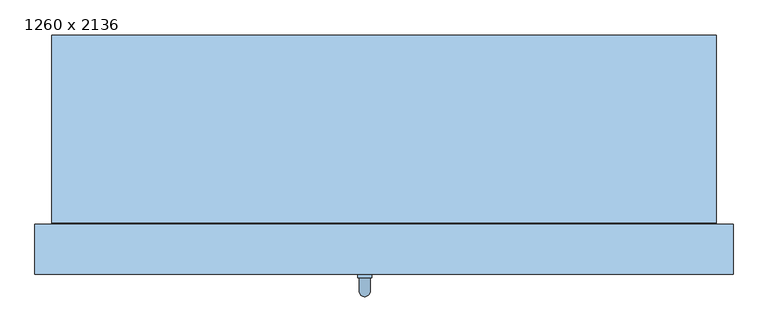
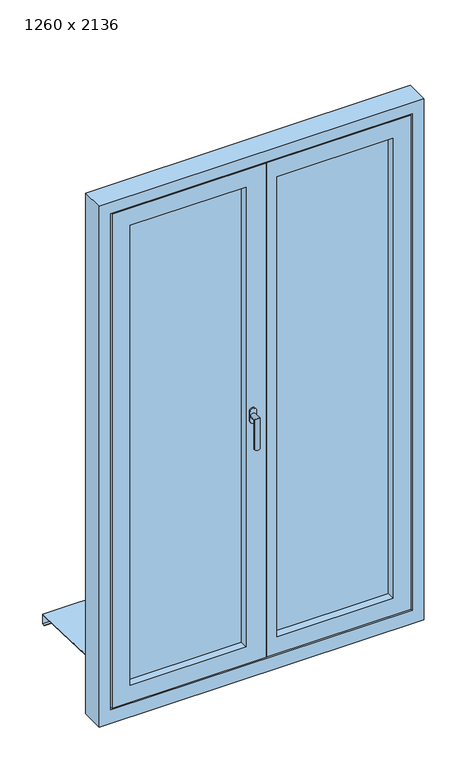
"""IFC4 building model written with IfcOpenShell, lengths in millimetres: window geometry, FE TÜR 2 tlg - DrehKipp mit Stulp : 1260 x 2136."""

from ifc_helpers import new_model, si_unit, frame, origin, place, context, project, spatial, polyline, circle_curve, ellipse_curve, outline, extrude, faceted_brep, source, transform, mapped, element, save
from ifc_brep_helpers import plane_surface, cylinder_surface, advanced_brep


def window_1260_x_2136_395e8edb(model_context):
    return source(origin(), model_context, "Body", "SolidModel", [
        advanced_brep(
        [(-47.5, 12.5, 1090.0), (-22.5, 12.5, 1090.0), (-22.5, 12.5, 1072.5), (-22.5, 12.5, 1055.0), (-47.5, 12.5, 1055.0), (-47.5, 12.5, 1072.5), (-25.0, -17.5, 1072.5), (-25.0, 6.5, 1072.5), (-45.0, 6.5, 1072.5), (-45.0, -17.5, 1072.5), (-25.0, -17.5, 952.5), (-45.0, -17.5, 952.5), (-47.5, 6.5, 1090.0), (-47.5, 6.5, 1072.5), (-47.5, 6.5, 1055.0), (-22.5, 6.5, 1055.0), (-22.5, 6.5, 1072.5), (-22.5, 6.5, 1090.0)],
        [
            (0, 1, circle_curve(frame((-35.0, 12.5, 1090.0), z_axis=(0.0, 1.0, 0.0), x_axis=(-1.0, 0.0, 0.0)), 12.5)),
            (1, 2),
            (2, 3),
            (3, 4, circle_curve(frame((-35.0, 12.5, 1055.0), z_axis=(0.0, 1.0, 0.0), x_axis=(-1.0, 0.0, 0.0)), 12.5)),
            (4, 5),
            (5, 0),
            (6, 7),
            (7, 8, circle_curve(frame((-35.0, 6.5, 1072.5), z_axis=(0.0, -1.0, 0.0), x_axis=(-1.0, 0.0, 0.0)), 10.0)),
            (8, 9),
            (9, 6, ellipse_curve(frame((-35.0, -17.5, 1072.5), z_axis=(0.0, 0.7071067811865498, 0.7071067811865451), x_axis=(0.0, 0.7071067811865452, -0.7071067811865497)), 14.1421356, 10.0)),
            (8, 7, circle_curve(frame((-35.0, 6.5, 1072.5), z_axis=(0.0, -1.0, 0.0), x_axis=(-1.0, 0.0, 0.0)), 10.0)),
            (6, 9, ellipse_curve(frame((-35.0, -17.5, 1072.5), z_axis=(0.0, 0.7071067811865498, 0.7071067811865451), x_axis=(0.0, 0.7071067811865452, -0.7071067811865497)), 14.1421356, 10.0)),
            (10, 11, circle_curve(frame((-35.0, -17.5, 952.5), z_axis=(0.0, 0.0, -1.0), x_axis=(-1.0, 0.0, 0.0)), 10.0)),
            (11, 10, circle_curve(frame((-35.0, -17.5, 952.5), z_axis=(0.0, 0.0, -1.0), x_axis=(-1.0, 0.0, 0.0)), 10.0)),
            (9, 11),
            (10, 6),
            (12, 13),
            (13, 14),
            (14, 15, circle_curve(frame((-35.0, 6.5, 1055.0), z_axis=(0.0, -1.0, 0.0), x_axis=(-1.0, 0.0, 0.0)), 12.5)),
            (15, 16),
            (16, 17),
            (17, 12, circle_curve(frame((-35.0, 6.5, 1090.0), z_axis=(0.0, -1.0, 0.0), x_axis=(-1.0, 0.0, 0.0)), 12.5)),
            (17, 1),
            (0, 12),
            (16, 2),
            (15, 3),
            (14, 4),
            (13, 5),
        ],
        [
            plane_surface(frame((-35.0, 12.5, 1072.5), z_axis=(0.0, 1.0, 0.0), x_axis=(-1.0, 0.0, 0.0))),
            cylinder_surface(frame((-35.0, 12.5, 1072.5), z_axis=(0.0, 1.0, 0.0), x_axis=(-1.0, 0.0, 0.0)), 10.0),
            plane_surface(frame((-35.0, -17.5, 952.5), z_axis=(0.0, 0.0, -1.0), x_axis=(-1.0, 0.0, 0.0))),
            cylinder_surface(frame((-35.0, -17.5, 1072.5), z_axis=(0.0, 0.0, 1.0), x_axis=(-1.0, 0.0, 0.0)), 10.0),
            plane_surface(frame((-47.5, 6.5, 1090.0), z_axis=(0.0, -1.0, 0.0), x_axis=(0.0, 0.0, 1.0))),
            cylinder_surface(frame((-35.0, 12.5, 1090.0), z_axis=(0.0, -1.0, 0.0), x_axis=(-1.0, 0.0, 0.0)), 12.5),
            plane_surface(frame((-22.5, 6.5, 1090.0), z_axis=(1.0, 0.0, 0.0), x_axis=(0.0, 1.0, 0.0))),
            plane_surface(frame((-22.5, 6.5, 1072.5), z_axis=(1.0, 0.0, 0.0), x_axis=(0.0, 1.0, 0.0))),
            cylinder_surface(frame((-35.0, 12.5, 1055.0), z_axis=(0.0, -1.0, 0.0), x_axis=(-1.0, 0.0, 0.0)), 12.5),
            plane_surface(frame((-47.5, 6.5, 1055.0), z_axis=(-1.0, 0.0, 0.0), x_axis=(0.0, 1.0, 0.0))),
            plane_surface(frame((-47.5, 6.5, 1072.5), z_axis=(-1.0, 0.0, 0.0), x_axis=(0.0, 1.0, 0.0))),
        ],
        [
            (0, [[1, 2, 3, 4, 5, 6]]),
            (1, [[7, 8, 9, 10]]),
            (1, [[-9, 11, -7, 12]]),
            (2, [[13, 14]]),
            (3, [[15, -13, 16, -10]]),
            (3, [[-16, -14, -15, -12]]),
            (4, [[17, 18, 19, 20, 21, 22], [-11, -8]]),
            (5, [[23, -1, 24, -22]]),
            (6, [[25, -2, -23, -21]]),
            (7, [[26, -3, -25, -20]]),
            (8, [[27, -4, -26, -19]]),
            (9, [[28, -5, -27, -18]]),
            (10, [[-24, -6, -28, -17]]),
        ],
    ),
        extrude(outline(polyline([(60.0, 43.5), (60.0, 87.5), (510.0, 87.5), (510.0, 43.5), (60.0, 43.5)])), frame((0.0, 0.0, 130.0), z_axis=(0.0, 0.0, 1.0), x_axis=(1.0, 0.0, 0.0)), (0.0, 0.0, 1.0), 1885.0),
        extrude(outline(polyline([(-510.0, 87.5), (-60.0, 87.5), (-60.0, 43.5), (-510.0, 43.5), (-510.0, 87.5)])), frame((0.0, 0.0, 130.0), z_axis=(0.0, 0.0, 1.0), x_axis=(1.0, 0.0, 0.0)), (0.0, 0.0, 1.0), 1885.0),
        faceted_brep([(580.0, 12.5, 2085.0), (22.5, 12.5, 2085.0), (22.5, 12.5, 60.0), (580.0, 12.5, 60.0), (60.0, 12.5, 2015.0), (510.0, 12.5, 2015.0), (510.0, 12.5, 130.0), (60.0, 12.5, 130.0), (580.0, 27.5, 60.0), (580.0, 27.5, 2085.0), (22.5, 27.5, 60.0), (22.5, 27.5, 2085.0), (22.5, 27.5, 2070.0), (22.5, 27.5, 75.0), (60.0, 102.5, 130.0), (60.0, 102.5, 2015.0), (510.0, 102.5, 130.0), (510.0, 102.5, 2015.0), (-17.5, 102.5, 2045.0), (540.0, 102.5, 2045.0), (540.0, 102.5, 100.0), (-17.5, 102.5, 100.0), (-17.5, 87.5, 100.0), (-17.5, 87.5, 2045.0), (540.0, 87.5, 100.0), (-2.5, 87.5, 100.0), (540.0, 87.5, 2045.0), (565.0, 27.5, 2070.0), (565.0, 27.5, 75.0), (-2.5, 87.5, 2045.0), (-2.5, 87.5, 85.0), (-2.5, 57.5, 85.0), (-2.5, 57.5, 2060.0), (-2.5, 87.5, 2060.0), (7.5, 57.5, 85.0), (7.5, 57.5, 2060.0), (555.0, 57.5, 85.0), (555.0, 87.5, 85.0), (555.0, 87.5, 2060.0), (7.5, 57.5, 75.0), (7.5, 27.5, 75.0), (7.5, 27.5, 2070.0), (7.5, 57.5, 2070.0), (565.0, 57.5, 75.0), (555.0, 57.5, 2060.0), (565.0, 57.5, 2070.0)], [[[0, 1, 2, 3], [4, 5, 6, 7]], [[3, 8, 9, 0]], [[2, 10, 8, 3]], [[1, 11, 12, 13, 10, 2]], [[7, 14, 15, 4]], [[6, 16, 14, 7]], [[5, 17, 16, 6]], [[18, 19, 20, 21], [15, 14, 16, 17]], [[21, 22, 23, 18]], [[24, 25, 22, 21, 20]], [[20, 19, 26, 24]], [[27, 12, 11, 9, 8, 10, 13, 28]], [[22, 25, 29, 23]], [[25, 30, 31, 32, 33, 29]], [[31, 34, 35, 32]], [[36, 34, 31, 30, 37]], [[26, 29, 33, 38, 37, 30, 25, 24]], [[34, 39, 40, 41, 42, 35]], [[40, 13, 12, 41]], [[28, 13, 40, 39, 43]], [[44, 35, 42, 45, 43, 39, 34, 36]], [[37, 38, 44, 36]], [[43, 45, 27, 28]], [[0, 9, 11, 1]], [[4, 15, 17, 5]], [[19, 18, 23, 29, 26]], [[38, 33, 32, 35, 44]], [[45, 42, 41, 12, 27]]]),
        faceted_brep([(-555.0, 87.5, 2060.0), (-7.5, 87.5, 2060.0), (-7.5, 87.5, 85.0), (-555.0, 87.5, 85.0), (-540.0, 87.5, 100.0), (-22.5, 87.5, 100.0), (-22.5, 87.5, 2045.0), (-540.0, 87.5, 2045.0), (-540.0, 102.5, 2045.0), (-540.0, 102.5, 100.0), (-22.5, 102.5, 100.0), (-22.5, 102.5, 2045.0), (-510.0, 102.5, 2015.0), (-510.0, 102.5, 130.0), (-60.0, 102.5, 130.0), (-60.0, 102.5, 2015.0), (-565.0, 57.5, 2070.0), (2.5, 57.5, 2070.0), (2.5, 57.5, 75.0), (-565.0, 57.5, 75.0), (-555.0, 57.5, 85.0), (-7.5, 57.5, 85.0), (-7.5, 57.5, 2060.0), (-555.0, 57.5, 2060.0), (-580.0, 27.5, 2085.0), (17.5, 27.5, 2085.0), (17.5, 27.5, 60.0), (-580.0, 27.5, 60.0), (-565.0, 27.5, 75.0), (2.5, 27.5, 75.0), (2.5, 27.5, 2070.0), (-565.0, 27.5, 2070.0), (-580.0, 12.5, 2085.0), (-580.0, 12.5, 60.0), (17.5, 12.5, 60.0), (17.5, 12.5, 2085.0), (-510.0, 12.5, 2015.0), (-60.0, 12.5, 2015.0), (-60.0, 12.5, 130.0), (-510.0, 12.5, 130.0)], [[[0, 1, 2, 3], [4, 5, 6, 7]], [[7, 8, 9, 4]], [[9, 10, 5, 4]], [[8, 11, 10, 9], [12, 13, 14, 15]], [[16, 17, 18, 19], [20, 21, 22, 23]], [[23, 0, 3, 20]], [[2, 21, 20, 3]], [[24, 25, 26, 27], [28, 29, 30, 31]], [[31, 16, 19, 28]], [[18, 29, 28, 19]], [[5, 10, 11, 6]], [[1, 22, 21, 2]], [[17, 30, 29, 18]], [[32, 24, 27, 33]], [[26, 34, 33, 27]], [[25, 35, 34, 26]], [[33, 34, 35, 32], [36, 37, 38, 39]], [[39, 13, 12, 36]], [[38, 14, 13, 39]], [[37, 15, 14, 38]], [[7, 6, 11, 8]], [[23, 22, 1, 0]], [[31, 30, 17, 16]], [[32, 35, 25, 24]], [[36, 12, 15, 37]]]),
        faceted_brep([(-600.0, 444.5, 191.3125305), (-600.0, 422.5, 192.0000305), (-600.0, 104.5, 201.9375305), (600.0, 104.5, 201.9375305), (600.0, 422.5, 192.0000305), (600.0, 444.5, 191.3125305), (-600.0, 444.5, 151.3125305), (600.0, 444.5, 151.3125305), (-600.0, 432.5, 151.3125305), (600.0, 432.5, 151.3125305), (-600.0, 432.5, 153.3125305), (600.0, 432.5, 153.3125305), (-600.0, 442.5, 153.3125305), (600.0, 442.5, 153.3125305), (-600.0, 442.5, 189.375), (600.0, 442.5, 189.375), (-600.0, 422.5, 190.0), (600.0, 422.5, 190.0), (600.0, 102.5, 200.0), (-600.0, 102.5, 200.0), (-600.0, 102.5, 220.0), (600.0, 102.5, 220.0), (-600.0, 104.5, 220.0), (600.0, 104.5, 220.0)], [[[0, 1, 2, 3, 4, 5]], [[6, 0, 5, 7]], [[8, 6, 7, 9]], [[10, 8, 9, 11]], [[12, 10, 11, 13]], [[14, 12, 13, 15]], [[16, 14, 15, 17, 18, 19]], [[20, 19, 18, 21]], [[22, 20, 21, 23]], [[2, 22, 23, 3]], [[16, 1, 0, 6, 8, 10, 12, 14]], [[17, 4, 3, 23, 21, 18]], [[1, 16, 19, 20, 22, 2]], [[4, 17, 15, 13, 11, 9, 7, 5]]]),
        faceted_brep([(630.0, 102.5, 0.0), (630.0, 12.5, 0.0), (-630.0, 12.5, 0.0), (-630.0, 102.5, 0.0), (630.0, 102.5, 2135.0), (630.0, 12.5, 2135.0), (-630.0, 12.5, 2135.0), (585.0, 12.5, 2090.0), (585.0, 12.5, 55.0), (-585.0, 12.5, 55.0), (-585.0, 12.5, 2090.0), (-630.0, 102.5, 2135.0), (545.0, 102.5, 95.0), (545.0, 102.5, 2050.0), (-545.0, 102.5, 2050.0), (-545.0, 102.5, 95.0), (545.0, 87.5, 95.0), (545.0, 87.5, 2050.0), (-545.0, 87.5, 95.0), (-545.0, 87.5, 2050.0), (585.0, 27.5, 2090.0), (585.0, 27.5, 55.0), (-585.0, 27.5, 55.0), (-585.0, 27.5, 2090.0), (570.0, 27.5, 2075.0), (570.0, 27.5, 70.0), (-570.0, 27.5, 70.0), (-570.0, 27.5, 2075.0), (570.0, 57.5, 70.0), (570.0, 57.5, 2075.0), (-570.0, 57.5, 2075.0), (-570.0, 57.5, 70.0), (560.0, 57.5, 2065.0), (560.0, 57.5, 80.0), (-560.0, 57.5, 80.0), (-560.0, 57.5, 2065.0), (560.0, 87.5, 80.0), (560.0, 87.5, 2065.0), (-560.0, 87.5, 2065.0), (-560.0, 87.5, 80.0)], [[[0, 1, 2, 3]], [[4, 5, 1, 0]], [[5, 6, 2, 1], [7, 8, 9, 10]], [[6, 11, 3, 2]], [[11, 4, 0, 3], [12, 13, 14, 15]], [[12, 16, 17, 13]], [[18, 15, 14, 19]], [[16, 12, 15, 18]], [[20, 21, 8, 7]], [[8, 21, 22, 9]], [[9, 22, 23, 10]], [[21, 20, 23, 22], [24, 25, 26, 27]], [[28, 29, 30, 31], [32, 33, 34, 35]], [[29, 28, 25, 24]], [[25, 28, 31, 26]], [[36, 37, 38, 39], [17, 16, 18, 19]], [[37, 36, 33, 32]], [[33, 36, 39, 34]], [[26, 31, 30, 27]], [[34, 39, 38, 35]], [[4, 11, 6, 5]], [[20, 7, 10, 23]], [[29, 24, 27, 30]], [[37, 32, 35, 38]], [[13, 17, 19, 14]]]),
    ])


if __name__ == "__main__":
    model = new_model("IFC4")
    model_context = context("Model", 3, world=origin())
    ifc_project = project(units=[si_unit("LENGTHUNIT", "METRE", prefix="MILLI")], contexts=[model_context])
    site = spatial("IfcSite", under=ifc_project)
    building = spatial("IfcBuilding", under=site)
    placement = place(None, origin())
    window_1260_x_2136_shape = window_1260_x_2136_395e8edb(model_context)
    element("IfcWindow", 1, ObjectType="FE TÜR 2 tlg - DrehKipp mit Stulp : 1260 x 2136", at=placement, inside=building, context=model_context, shape_type="MappedRepresentation", body=[
        mapped(window_1260_x_2136_shape, transform((0.0, 0.0, 0.0), x_axis=(1.0, 0.0, 0.0), y_axis=(0.0, 1.0, 0.0), z_axis=(0.0, 0.0, 1.0))),
    ])
    save(model, "model.ifc")
